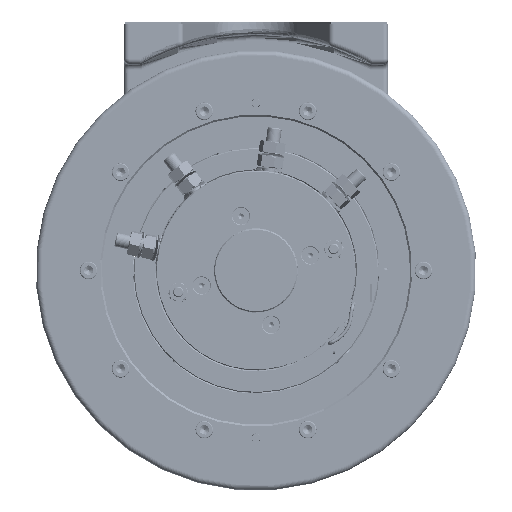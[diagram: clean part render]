
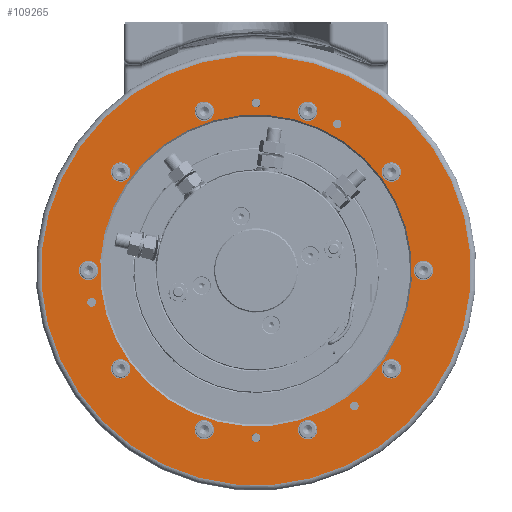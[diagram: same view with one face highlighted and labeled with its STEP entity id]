
A CAD part, front view. The second image highlights one B-rep face of the part: STEP entity #109265.
In plain terms, the highlighted planar face has unit normal (0, -1, 0).
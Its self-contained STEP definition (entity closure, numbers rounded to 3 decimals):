
#1879=FACE_BOUND('',#34010,.T.);
#1880=FACE_BOUND('',#34011,.T.);
#1881=FACE_BOUND('',#34012,.T.);
#1882=FACE_BOUND('',#34013,.T.);
#1883=FACE_BOUND('',#34014,.T.);
#1884=FACE_BOUND('',#34015,.T.);
#1885=FACE_BOUND('',#34016,.T.);
#1886=FACE_BOUND('',#34017,.T.);
#1887=FACE_BOUND('',#34018,.T.);
#1888=FACE_BOUND('',#34019,.T.);
#1889=FACE_BOUND('',#34020,.T.);
#1890=FACE_BOUND('',#34021,.T.);
#1891=FACE_BOUND('',#34022,.T.);
#1892=FACE_BOUND('',#34023,.T.);
#1893=FACE_BOUND('',#34024,.T.);
#1894=FACE_BOUND('',#34025,.T.);
#2675=PLANE('',#115845);
#27804=FACE_OUTER_BOUND('',#34009,.T.);
#34009=EDGE_LOOP('',(#72484));
#34010=EDGE_LOOP('',(#72485));
#34011=EDGE_LOOP('',(#72486));
#34012=EDGE_LOOP('',(#72487));
#34013=EDGE_LOOP('',(#72488));
#34014=EDGE_LOOP('',(#72489));
#34015=EDGE_LOOP('',(#72490));
#34016=EDGE_LOOP('',(#72491));
#34017=EDGE_LOOP('',(#72492));
#34018=EDGE_LOOP('',(#72493));
#34019=EDGE_LOOP('',(#72494));
#34020=EDGE_LOOP('',(#72495));
#34021=EDGE_LOOP('',(#72496));
#34022=EDGE_LOOP('',(#72497));
#34023=EDGE_LOOP('',(#72498));
#34024=EDGE_LOOP('',(#72499));
#34025=EDGE_LOOP('',(#72500));
#40947=CIRCLE('',#115464,122.);
#41271=CIRCLE('',#115801,2.5);
#41274=CIRCLE('',#115805,2.5);
#41304=CIRCLE('',#115844,88.5);
#41305=CIRCLE('',#115846,2.459);
#41306=CIRCLE('',#115847,5.5);
#41307=CIRCLE('',#115848,5.5);
#41308=CIRCLE('',#115849,5.5);
#41309=CIRCLE('',#115850,5.5);
#41310=CIRCLE('',#115851,5.5);
#41311=CIRCLE('',#115852,5.5);
#41312=CIRCLE('',#115853,5.5);
#41313=CIRCLE('',#115854,5.5);
#41314=CIRCLE('',#115855,5.5);
#41315=CIRCLE('',#115856,5.5);
#41316=CIRCLE('',#115857,2.459);
#41317=CIRCLE('',#115858,2.459);
#45583=VERTEX_POINT('',#157796);
#46506=VERTEX_POINT('',#159658);
#46509=VERTEX_POINT('',#159666);
#46539=VERTEX_POINT('',#159741);
#46540=VERTEX_POINT('',#159745);
#46541=VERTEX_POINT('',#159747);
#46542=VERTEX_POINT('',#159749);
#46543=VERTEX_POINT('',#159751);
#46544=VERTEX_POINT('',#159753);
#46545=VERTEX_POINT('',#159755);
#46546=VERTEX_POINT('',#159757);
#46547=VERTEX_POINT('',#159759);
#46548=VERTEX_POINT('',#159761);
#46549=VERTEX_POINT('',#159763);
#46550=VERTEX_POINT('',#159765);
#46551=VERTEX_POINT('',#159767);
#46552=VERTEX_POINT('',#159769);
#55785=EDGE_CURVE('',#45583,#45583,#40947,.T.);
#56710=EDGE_CURVE('',#46506,#46506,#41271,.T.);
#56714=EDGE_CURVE('',#46509,#46509,#41274,.T.);
#56750=EDGE_CURVE('',#46539,#46539,#41304,.T.);
#56752=EDGE_CURVE('',#46540,#46540,#41305,.T.);
#56753=EDGE_CURVE('',#46541,#46541,#41306,.T.);
#56754=EDGE_CURVE('',#46542,#46542,#41307,.T.);
#56755=EDGE_CURVE('',#46543,#46543,#41308,.T.);
#56756=EDGE_CURVE('',#46544,#46544,#41309,.T.);
#56757=EDGE_CURVE('',#46545,#46545,#41310,.T.);
#56758=EDGE_CURVE('',#46546,#46546,#41311,.T.);
#56759=EDGE_CURVE('',#46547,#46547,#41312,.T.);
#56760=EDGE_CURVE('',#46548,#46548,#41313,.T.);
#56761=EDGE_CURVE('',#46549,#46549,#41314,.T.);
#56762=EDGE_CURVE('',#46550,#46550,#41315,.T.);
#56763=EDGE_CURVE('',#46551,#46551,#41316,.T.);
#56764=EDGE_CURVE('',#46552,#46552,#41317,.T.);
#72484=ORIENTED_EDGE('',*,*,#55785,.F.);
#72485=ORIENTED_EDGE('',*,*,#56752,.T.);
#72486=ORIENTED_EDGE('',*,*,#56753,.T.);
#72487=ORIENTED_EDGE('',*,*,#56754,.T.);
#72488=ORIENTED_EDGE('',*,*,#56755,.T.);
#72489=ORIENTED_EDGE('',*,*,#56756,.T.);
#72490=ORIENTED_EDGE('',*,*,#56757,.T.);
#72491=ORIENTED_EDGE('',*,*,#56758,.T.);
#72492=ORIENTED_EDGE('',*,*,#56759,.T.);
#72493=ORIENTED_EDGE('',*,*,#56760,.T.);
#72494=ORIENTED_EDGE('',*,*,#56761,.T.);
#72495=ORIENTED_EDGE('',*,*,#56762,.T.);
#72496=ORIENTED_EDGE('',*,*,#56714,.T.);
#72497=ORIENTED_EDGE('',*,*,#56710,.T.);
#72498=ORIENTED_EDGE('',*,*,#56763,.T.);
#72499=ORIENTED_EDGE('',*,*,#56764,.T.);
#72500=ORIENTED_EDGE('',*,*,#56750,.F.);
#109265=ADVANCED_FACE('',(#27804,#1879,#1880,#1881,#1882,#1883,#1884,#1885,
#1886,#1887,#1888,#1889,#1890,#1891,#1892,#1893,#1894),#2675,.T.);
#115464=AXIS2_PLACEMENT_3D('',#157798,#126307,#126308);
#115801=AXIS2_PLACEMENT_3D('',#159659,#127582,#127583);
#115805=AXIS2_PLACEMENT_3D('',#159667,#127591,#127592);
#115844=AXIS2_PLACEMENT_3D('',#159742,#127675,#127676);
#115845=AXIS2_PLACEMENT_3D('',#159744,#127678,#127679);
#115846=AXIS2_PLACEMENT_3D('',#159746,#127680,#127681);
#115847=AXIS2_PLACEMENT_3D('',#159748,#127682,#127683);
#115848=AXIS2_PLACEMENT_3D('',#159750,#127684,#127685);
#115849=AXIS2_PLACEMENT_3D('',#159752,#127686,#127687);
#115850=AXIS2_PLACEMENT_3D('',#159754,#127688,#127689);
#115851=AXIS2_PLACEMENT_3D('',#159756,#127690,#127691);
#115852=AXIS2_PLACEMENT_3D('',#159758,#127692,#127693);
#115853=AXIS2_PLACEMENT_3D('',#159760,#127694,#127695);
#115854=AXIS2_PLACEMENT_3D('',#159762,#127696,#127697);
#115855=AXIS2_PLACEMENT_3D('',#159764,#127698,#127699);
#115856=AXIS2_PLACEMENT_3D('',#159766,#127700,#127701);
#115857=AXIS2_PLACEMENT_3D('',#159768,#127702,#127703);
#115858=AXIS2_PLACEMENT_3D('',#159770,#127704,#127705);
#126307=DIRECTION('center_axis',(0.,1.,0.));
#126308=DIRECTION('ref_axis',(-0.569,0.,0.823));
#127582=DIRECTION('center_axis',(0.,1.,0.));
#127583=DIRECTION('ref_axis',(-0.809,0.,-0.588));
#127591=DIRECTION('center_axis',(0.,1.,0.));
#127592=DIRECTION('ref_axis',(0.809,0.,0.588));
#127675=DIRECTION('center_axis',(0.,-1.,0.));
#127676=DIRECTION('ref_axis',(0.588,0.,-0.809));
#127678=DIRECTION('center_axis',(0.,-1.,0.));
#127679=DIRECTION('ref_axis',(0.588,0.,-0.809));
#127680=DIRECTION('center_axis',(0.,1.,0.));
#127681=DIRECTION('ref_axis',(0.809,0.,0.588));
#127682=DIRECTION('center_axis',(0.,1.,0.));
#127683=DIRECTION('ref_axis',(0.809,0.,0.588));
#127684=DIRECTION('center_axis',(0.,1.,0.));
#127685=DIRECTION('ref_axis',(0.309,0.,0.951));
#127686=DIRECTION('center_axis',(0.,1.,0.));
#127687=DIRECTION('ref_axis',(1.,0.,0.));
#127688=DIRECTION('center_axis',(0.,1.,0.));
#127689=DIRECTION('ref_axis',(0.809,0.,-0.588));
#127690=DIRECTION('center_axis',(0.,1.,0.));
#127691=DIRECTION('ref_axis',(0.309,0.,-0.951));
#127692=DIRECTION('center_axis',(0.,1.,0.));
#127693=DIRECTION('ref_axis',(-0.309,0.,
-0.951));
#127694=DIRECTION('center_axis',(0.,1.,0.));
#127695=DIRECTION('ref_axis',(-0.809,0.,-0.588));
#127696=DIRECTION('center_axis',(0.,1.,0.));
#127697=DIRECTION('ref_axis',(-1.,0.,0.));
#127698=DIRECTION('center_axis',(0.,1.,0.));
#127699=DIRECTION('ref_axis',(-0.809,0.,0.588));
#127700=DIRECTION('center_axis',(0.,1.,0.));
#127701=DIRECTION('ref_axis',(-0.309,0.,0.951));
#127702=DIRECTION('center_axis',(0.,1.,0.));
#127703=DIRECTION('ref_axis',(0.809,0.,0.588));
#127704=DIRECTION('center_axis',(0.,1.,0.));
#127705=DIRECTION('ref_axis',(0.809,0.,0.588));
#157796=CARTESIAN_POINT('',(69.359,-40.,-100.366));
#157798=CARTESIAN_POINT('Origin',(0.,-40.,
0.));
#159658=CARTESIAN_POINT('',(2.023,-40.,-93.531));
#159659=CARTESIAN_POINT('Origin',(0.,-40.,
-95.));
#159666=CARTESIAN_POINT('',(-2.023,-40.,93.531));
#159667=CARTESIAN_POINT('Origin',(0.,-40.,
95.));
#159741=CARTESIAN_POINT('',(-52.019,-40.,71.598));
#159742=CARTESIAN_POINT('Origin',(0.,-40.,
0.));
#159744=CARTESIAN_POINT('Origin',(-57.309,-40.,78.879));
#159745=CARTESIAN_POINT('',(53.851,-40.,-78.302));
#159746=CARTESIAN_POINT('Origin',(55.84,-40.,-76.857));
#159747=CARTESIAN_POINT('',(24.907,-40.,-93.583));
#159748=CARTESIAN_POINT('Origin',(29.357,-40.,-90.35));
#159749=CARTESIAN_POINT('',(75.157,-40.,-61.07));
#159750=CARTESIAN_POINT('Origin',(76.857,-40.,-55.84));
#159751=CARTESIAN_POINT('',(-34.857,-40.,-90.35));
#159752=CARTESIAN_POINT('Origin',(-29.357,-40.,-90.35));
#159753=CARTESIAN_POINT('',(-81.306,-40.,-52.607));
#159754=CARTESIAN_POINT('Origin',(-76.857,-40.,-55.84));
#159755=CARTESIAN_POINT('',(-96.7,-40.,5.231));
#159756=CARTESIAN_POINT('Origin',(-95.,-40.,0.));
#159757=CARTESIAN_POINT('',(-75.157,-40.,61.07));
#159758=CARTESIAN_POINT('Origin',(-76.857,-40.,55.84));
#159759=CARTESIAN_POINT('',(-24.907,-40.,93.583));
#159760=CARTESIAN_POINT('Origin',(-29.357,-40.,90.35));
#159761=CARTESIAN_POINT('',(34.857,-40.,90.35));
#159762=CARTESIAN_POINT('Origin',(29.357,-40.,90.35));
#159763=CARTESIAN_POINT('',(81.306,-40.,52.607));
#159764=CARTESIAN_POINT('Origin',(76.857,-40.,55.84));
#159765=CARTESIAN_POINT('',(96.7,-40.,-5.231));
#159766=CARTESIAN_POINT('Origin',(95.,-40.,0.));
#159767=CARTESIAN_POINT('',(44.068,-40.,81.644));
#159768=CARTESIAN_POINT('Origin',(46.057,-40.,83.089));
#159769=CARTESIAN_POINT('',(-95.244,-40.,-19.572));
#159770=CARTESIAN_POINT('Origin',(-93.255,-40.,-18.127));
